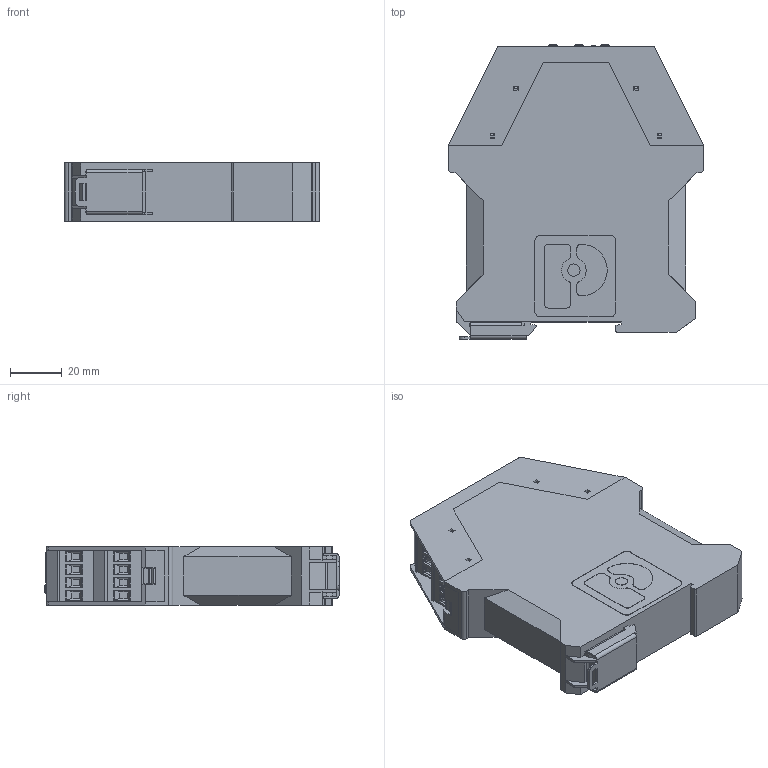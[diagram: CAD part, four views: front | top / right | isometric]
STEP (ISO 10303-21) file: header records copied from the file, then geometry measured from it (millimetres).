
FILE_DESCRIPTION((''),'2;1');
FILE_NAME('NST-2004_COMPLETE_ASM','2017-11-09T',('ran'),(''),'CREO PARAMETRIC BY PTC INC, 2016050','CREO PARAMETRIC BY PTC INC, 2016050','');
FILE_SCHEMA(('CONFIG_CONTROL_DESIGN'));
Length unit declared in the file: millimetre
Products named in the file (8): ME_22-119; 2907127_ASM; ME_22-8137; FRONTPLADE; MKDSO_2_5-4-L_H; MKDSO_2_5-4-R_H; NST-2004_COMPLETE_1_ASM; NST-2004_COMPLETE_ASM
Assembly tree (9 placements, depth 4):
  NST-2004_COMPLETE_ASM
    NST-2004_COMPLETE_1_ASM
      2907127_ASM
        ME_22-119
      ME_22-8137
      FRONTPLADE
      MKDSO_2_5-4-L_H  x2
      MKDSO_2_5-4-R_H  x2
Bounding box: 99 x 114.1 x 22.6 mm (x, y, z)
Volume: 67605.6 mm3; surface area: 65612.4 mm2
Topology: 7 solids, 7 shells, 1709 faces, 4712 edges, 3088 vertices
Faces by surface type: plane 1457, cylinder 240, torus 12
Entity records: 45954 total; most frequent: CARTESIAN_POINT 7026, ORIENTED_EDGE 6906, DIRECTION 6379, EDGE_CURVE 3453, VECTOR 3023, LINE 3023, VERTEX_POINT 2273, AXIS2_PLACEMENT_3D 1678
